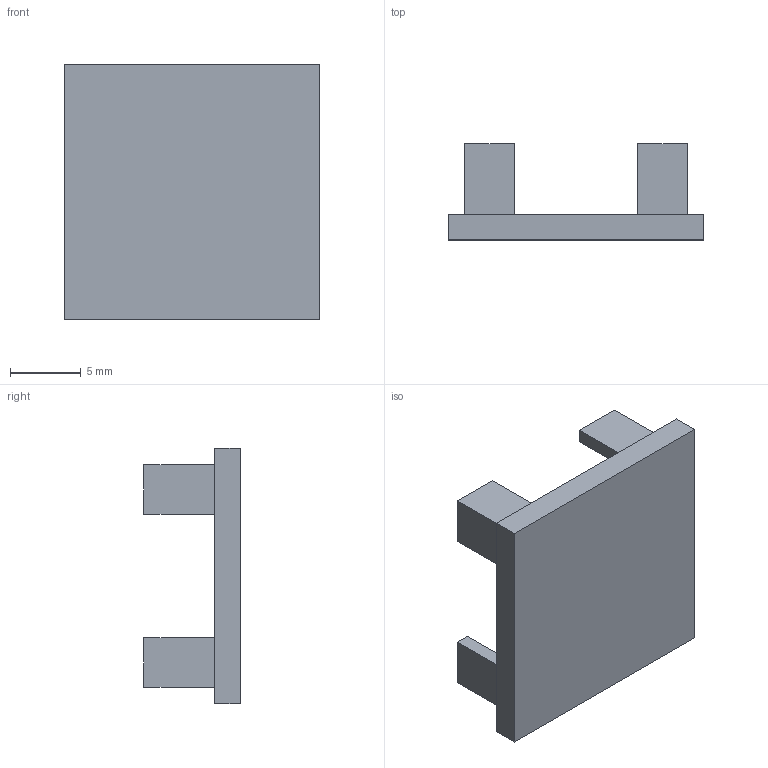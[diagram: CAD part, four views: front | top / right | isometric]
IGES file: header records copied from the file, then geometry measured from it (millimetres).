
Start section: Data from Parasolid IGES Translator 20.0.26, Copyright(c) 2006 Siemens P LM Software. All Rights Reserved.
Global section: file name: 9298849.igs; native system: By Siemens PLM Incorporated; preprocessor: XPlus GENERIC/IGES 20.0.26; author: Noname; organization: Noname; date: 20210823.114235; units: millimetre
Bounding box: 18 x 6.8 x 18 mm (x, y, z)
Surface area: 1057.6 mm2 (no closed solid volume)
Topology: 0 solids, 0 shells, 34 faces, 168 edges, 168 vertices
Faces by surface type: extrusion 34
